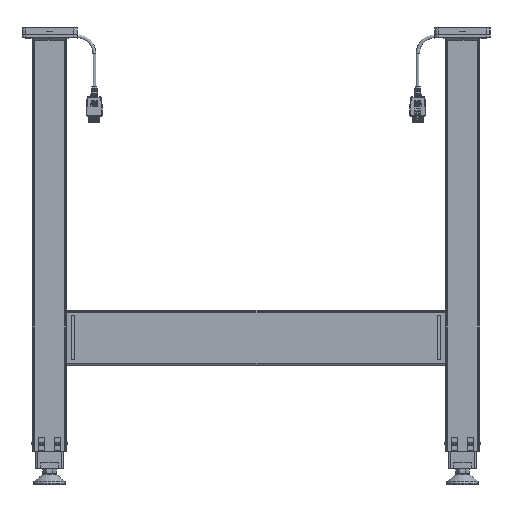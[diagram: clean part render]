
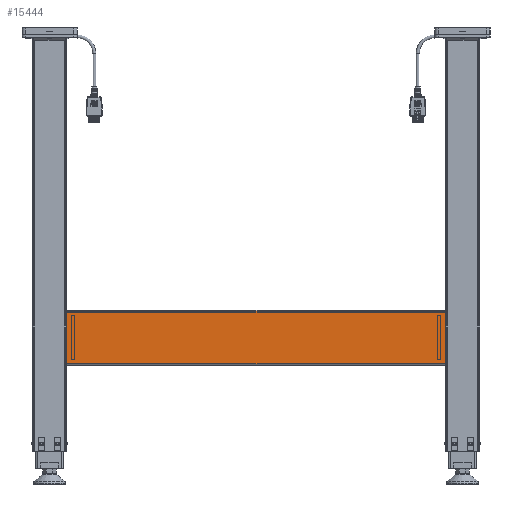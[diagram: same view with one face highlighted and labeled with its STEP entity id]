
A CAD part, front view. The second image highlights one B-rep face of the part: STEP entity #15444.
In plain terms, the highlighted planar face has unit normal (0, -1, 0) as drawn and (0, 0, 1) by its records, which use the part's own axes.
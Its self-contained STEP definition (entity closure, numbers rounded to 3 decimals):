
#5184=ORIENTED_EDGE('',*,*,#7529,.F.);
#5185=ORIENTED_EDGE('',*,*,#7528,.F.);
#5186=ORIENTED_EDGE('',*,*,#7530,.T.);
#5187=ORIENTED_EDGE('',*,*,#7531,.T.);
#7528=EDGE_CURVE('',#9009,#9008,#10421,.T.);
#7529=EDGE_CURVE('',#9008,#9010,#10422,.T.);
#7530=EDGE_CURVE('',#9009,#9011,#10423,.T.);
#7531=EDGE_CURVE('',#9011,#9010,#10424,.T.);
#9008=VERTEX_POINT('',#32032);
#9009=VERTEX_POINT('',#32034);
#9010=VERTEX_POINT('',#32038);
#9011=VERTEX_POINT('',#32040);
#10421=LINE('',#32035,#11749);
#10422=LINE('',#32037,#11750);
#10423=LINE('',#32039,#11751);
#10424=LINE('',#32041,#11752);
#11749=VECTOR('',#25599,1000.);
#11750=VECTOR('',#25602,1000.);
#11751=VECTOR('',#25603,1000.);
#11752=VECTOR('',#25604,1000.);
#12736=EDGE_LOOP('',(#5184,#5185,#5186,#5187));
#13924=FACE_BOUND('',#12736,.T.);
#14662=PLANE('',#21565);
#15444=ADVANCED_FACE('',(#13924),#14662,.T.);
#21565=AXIS2_PLACEMENT_3D('',#32036,#25600,#25601);
#25599=DIRECTION('',(0.,-1.,0.));
#25600=DIRECTION('',(0.,0.,1.));
#25601=DIRECTION('',(1.,0.,0.));
#25602=DIRECTION('',(-1.,0.,0.));
#25603=DIRECTION('',(-1.,0.,0.));
#25604=DIRECTION('',(0.,-1.,0.));
#32032=CARTESIAN_POINT('',(38.,0.,25.));
#32034=CARTESIAN_POINT('',(38.,550.,25.));
#32035=CARTESIAN_POINT('',(38.,550.,25.));
#32036=CARTESIAN_POINT('',(38.,550.,25.));
#32037=CARTESIAN_POINT('',(38.,0.,25.));
#32038=CARTESIAN_POINT('',(-38.,0.,25.));
#32039=CARTESIAN_POINT('',(38.,550.,25.));
#32040=CARTESIAN_POINT('',(-38.,550.,25.));
#32041=CARTESIAN_POINT('',(-38.,550.,25.));
